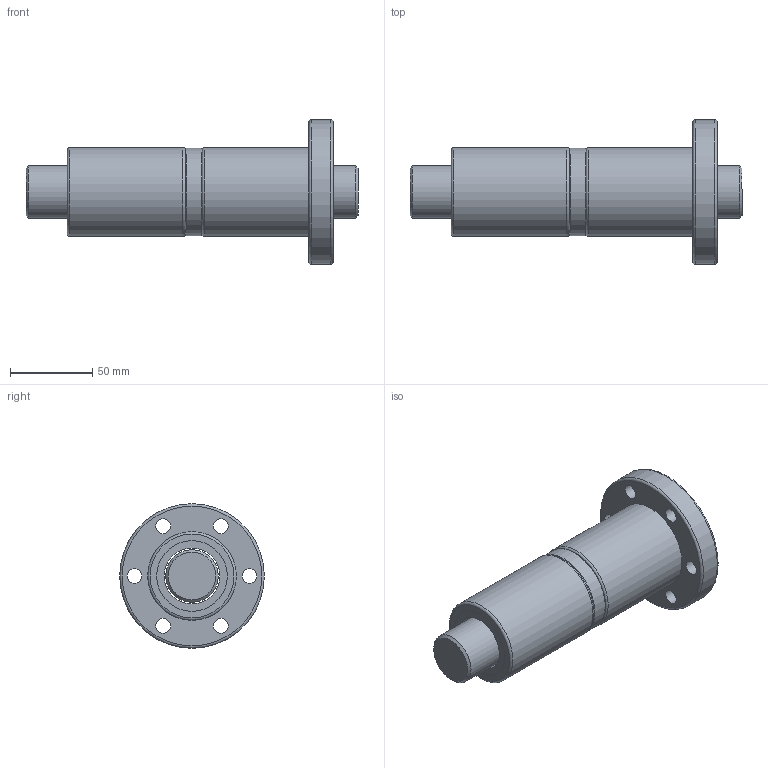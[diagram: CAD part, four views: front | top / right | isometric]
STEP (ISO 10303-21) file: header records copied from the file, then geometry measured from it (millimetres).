
FILE_DESCRIPTION(/* description */ (''),/* implementation_level */ '2;1');
FILE_NAME(/* name */ 'DFI3210',/* time_stamp */ '2007-10-26T11:51:36+08:00',/* author */ (''),/* organization */ (''),/* preprocessor_version */ 'ST-DEVELOPER v9',/* originating_system */ 'EDS PLM SOLUTIONS - UNIGRAPHICS NX 1.0',/* authorisation */ '');
FILE_SCHEMA (('CONFIG_CONTROL_DESIGN'));
Length unit declared in the file: millimetre
Products named in the file (1): FANNDA0400fs
Bounding box: 202 x 88 x 88 mm (x, y, z)
Volume: 431352.5 mm3; surface area: 91581.8 mm2
Topology: 6 solids, 6 shells, 56 faces, 101 edges, 66 vertices
Faces by surface type: cylinder 26, plane 21, torus 7, cone 2
Full cylindrical faces by diameter (mm): 9 x6, 14 x6, 32 x1, 34 x5, 43 x4, 53 x1, 54 x2, 88 x1
Entity records: 1294 total; most frequent: DIRECTION 236, CARTESIAN_POINT 179, EDGE_LOOP 122, ORIENTED_EDGE 122, AXIS2_PLACEMENT_3D 118, FACE_BOUND 99, VERTEX_POINT 61, EDGE_CURVE 61
